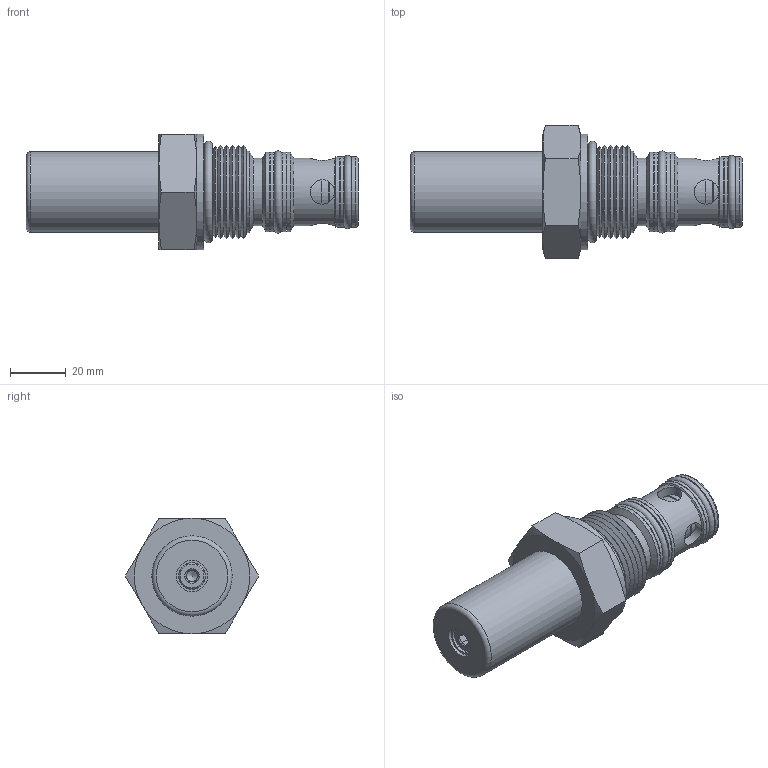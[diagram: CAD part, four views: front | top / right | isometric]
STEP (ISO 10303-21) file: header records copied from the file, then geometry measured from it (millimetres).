
FILE_DESCRIPTION((''),'2;1');
FILE_NAME('Q:\Delta CADD Insertion Codes\3D Solid models\Mechanical Valves\DWG\SLPCE0I.stp','2012-12-06T13:20:56',('Dan'),(''),'Autodesk Inventor 2012','Autodesk Inventor 2012','');
FILE_SCHEMA(('AUTOMOTIVE_DESIGN { 1 0 10303 214 1 1 1 1 }'));
Length unit declared in the file: inch
Products named in the file (8): Assembly14; Part176; Part178; Part180; Part182; Part184; Part186; Part188
Assembly tree (7 placements, depth 2):
  Assembly14
    Part176
    Part178
    Part180
    Part182
    Part184
    Part186
    Part188
Bounding box: 118.62 x 47.66 x 41.27 mm (x, y, z)
Volume: 84003.3 mm3; surface area: 21201.2 mm2
Topology: 7 solids, 7 shells, 105 faces, 211 edges, 128 vertices
Faces by surface type: plane 37, cylinder 32, cone 31, torus 5
Full cylindrical faces by diameter (mm): 0.762 x1, 3.962 x1, 8.738 x4, 9.436 x1, 9.588 x1, 11.151 x1, 16.459 x2, 17.462 x2, 17.479 x1, 20.93 x2, 24.105 x4, 24.13 x1, 25.248 x1, 25.349 x2, 28.423 x2, 28.524 x2, 28.702 x1, 29.21 x1, 30.328 x1, 41.275 x1
Entity records: 2885 total; most frequent: CARTESIAN_POINT 744, DIRECTION 434, ORIENTED_EDGE 292, AXIS2_PLACEMENT_3D 208, EDGE_LOOP 189, EDGE_CURVE 146, VERTEX_POINT 119, FACE_OUTER_BOUND 105
